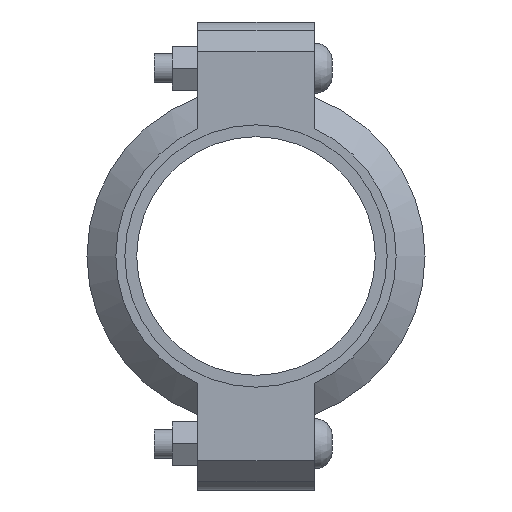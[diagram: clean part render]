
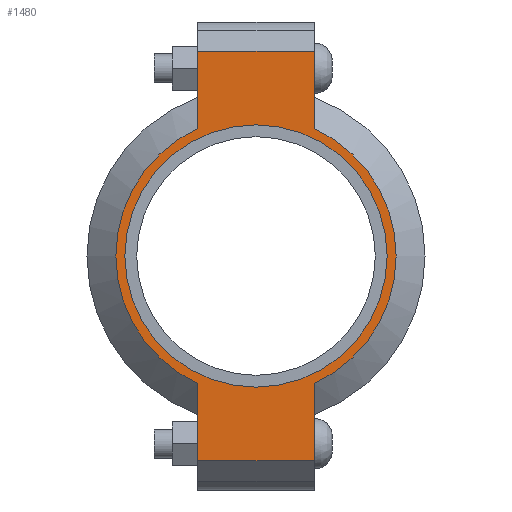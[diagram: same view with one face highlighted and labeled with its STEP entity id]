
A CAD part, left-side view. The second image highlights one B-rep face of the part: STEP entity #1480.
In plain terms, the highlighted planar face has unit normal (-1, 0, 0) as drawn and (0, 0, 1) by its records, which use the part's own axes.
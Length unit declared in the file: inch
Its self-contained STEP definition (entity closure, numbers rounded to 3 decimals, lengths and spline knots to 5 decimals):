
#160=LINE('',#2549,#251);
#168=LINE('',#2585,#259);
#175=LINE('',#2606,#266);
#184=LINE('',#2638,#275);
#185=LINE('',#2642,#276);
#186=LINE('',#2644,#277);
#251=VECTOR('',#2059,0.3937);
#259=VECTOR('',#2075,0.3937);
#266=VECTOR('',#2094,0.3937);
#275=VECTOR('',#2119,0.3937);
#276=VECTOR('',#2124,0.3937);
#277=VECTOR('',#2125,0.3937);
#329=FACE_BOUND('',#489,.T.);
#393=FACE_OUTER_BOUND('',#488,.T.);
#488=EDGE_LOOP('',(#1215,#1216,#1217,#1218,#1219,#1220,#1221,#1222));
#489=EDGE_LOOP('',(#1223));
#586=CIRCLE('',#1723,2.405);
#587=CIRCLE('',#1724,2.405);
#588=CIRCLE('',#1725,2.25);
#691=VERTEX_POINT('',#2546);
#692=VERTEX_POINT('',#2548);
#703=VERTEX_POINT('',#2580);
#704=VERTEX_POINT('',#2584);
#711=VERTEX_POINT('',#2603);
#712=VERTEX_POINT('',#2605);
#722=VERTEX_POINT('',#2641);
#723=VERTEX_POINT('',#2643);
#724=VERTEX_POINT('',#2646);
#855=EDGE_CURVE('',#692,#691,#160,.T.);
#869=EDGE_CURVE('',#704,#703,#168,.T.);
#879=EDGE_CURVE('',#712,#711,#175,.T.);
#894=EDGE_CURVE('',#704,#691,#184,.T.);
#895=EDGE_CURVE('',#703,#712,#586,.T.);
#896=EDGE_CURVE('',#722,#711,#185,.T.);
#897=EDGE_CURVE('',#722,#723,#186,.T.);
#898=EDGE_CURVE('',#723,#692,#587,.T.);
#899=EDGE_CURVE('',#724,#724,#588,.T.);
#1215=ORIENTED_EDGE('',*,*,#894,.F.);
#1216=ORIENTED_EDGE('',*,*,#869,.T.);
#1217=ORIENTED_EDGE('',*,*,#895,.T.);
#1218=ORIENTED_EDGE('',*,*,#879,.T.);
#1219=ORIENTED_EDGE('',*,*,#896,.F.);
#1220=ORIENTED_EDGE('',*,*,#897,.T.);
#1221=ORIENTED_EDGE('',*,*,#898,.T.);
#1222=ORIENTED_EDGE('',*,*,#855,.T.);
#1223=ORIENTED_EDGE('',*,*,#899,.T.);
#1334=PLANE('',#1722);
#1480=ADVANCED_FACE('',(#393,#329),#1334,.T.);
#1722=AXIS2_PLACEMENT_3D('',#2639,#2120,#2121);
#1723=AXIS2_PLACEMENT_3D('',#2640,#2122,#2123);
#1724=AXIS2_PLACEMENT_3D('',#2645,#2126,#2127);
#1725=AXIS2_PLACEMENT_3D('',#2647,#2128,#2129);
#2059=DIRECTION('',(-1.,0.,0.));
#2075=DIRECTION('',(1.,0.,0.));
#2094=DIRECTION('',(1.,0.,0.));
#2119=DIRECTION('',(0.,1.,0.));
#2120=DIRECTION('center_axis',(0.,0.,1.));
#2121=DIRECTION('ref_axis',(1.,0.,0.));
#2122=DIRECTION('center_axis',(0.,0.,1.));
#2123=DIRECTION('ref_axis',(-1.,0.,0.));
#2124=DIRECTION('',(0.,-1.,0.));
#2125=DIRECTION('',(-1.,0.,0.));
#2126=DIRECTION('center_axis',(0.,0.,1.));
#2127=DIRECTION('ref_axis',(-1.,0.,0.));
#2128=DIRECTION('center_axis',(0.,0.,-1.));
#2129=DIRECTION('ref_axis',(-1.,0.,0.));
#2546=CARTESIAN_POINT('',(-3.515,1.,1.065));
#2548=CARTESIAN_POINT('',(-2.18724,1.,1.065));
#2549=CARTESIAN_POINT('',(-4.015,1.,1.065));
#2580=CARTESIAN_POINT('',(-2.18724,-1.,1.065));
#2584=CARTESIAN_POINT('',(-3.515,-1.,1.065));
#2585=CARTESIAN_POINT('',(4.015,-1.,1.065));
#2603=CARTESIAN_POINT('',(3.515,-1.,1.065));
#2605=CARTESIAN_POINT('',(2.18724,-1.,1.065));
#2606=CARTESIAN_POINT('',(4.015,-1.,1.065));
#2638=CARTESIAN_POINT('',(-3.515,0.5,1.065));
#2639=CARTESIAN_POINT('Origin',(0.,0.,1.065));
#2640=CARTESIAN_POINT('Origin',(0.,0.,1.065));
#2641=CARTESIAN_POINT('',(3.515,1.,1.065));
#2642=CARTESIAN_POINT('',(3.515,-0.5,1.065));
#2643=CARTESIAN_POINT('',(2.18724,1.,1.065));
#2644=CARTESIAN_POINT('',(-4.015,1.,1.065));
#2645=CARTESIAN_POINT('Origin',(0.,0.,1.065));
#2646=CARTESIAN_POINT('',(2.25,0.,1.065));
#2647=CARTESIAN_POINT('Origin',(0.,0.,1.065));
